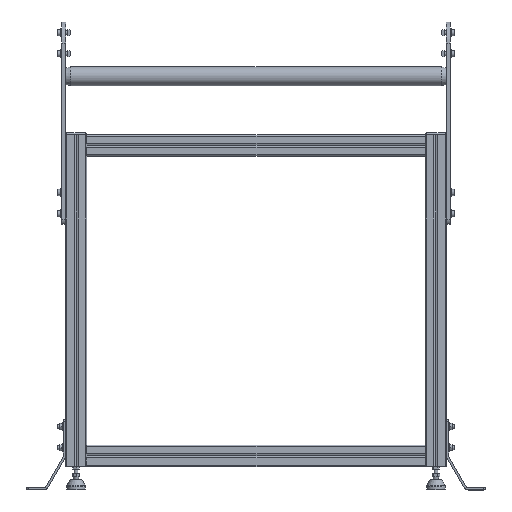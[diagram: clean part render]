
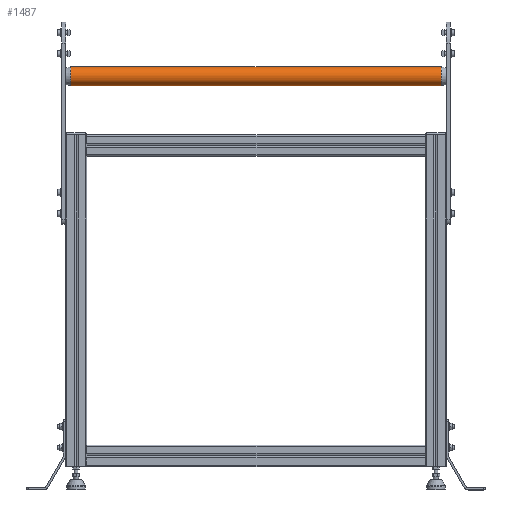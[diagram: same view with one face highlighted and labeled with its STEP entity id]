
A CAD part, top view. The second image highlights one B-rep face of the part: STEP entity #1487.
In plain terms, the highlighted cylindrical face has radius 20 mm (diameter 40 mm), a full revolution.
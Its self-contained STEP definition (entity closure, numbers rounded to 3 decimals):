
#77 = CYLINDRICAL_SURFACE ( 'NONE', #2859, 20. ) ;
#492 = ORIENTED_EDGE ( 'NONE', *, *, #12271, .T. ) ;
#715 = AXIS2_PLACEMENT_3D ( 'NONE', #10625, #8504, #14344 ) ;
#1487 = ADVANCED_FACE ( 'NONE', ( #11465, #13941 ), #77, .T. ) ;
#2019 = CARTESIAN_POINT ( 'NONE',  ( -394., 0., 20. ) ) ;
#2090 = CARTESIAN_POINT ( 'NONE',  ( 394., 0., 20. ) ) ;
#2764 = EDGE_LOOP ( 'NONE', ( #10231 ) ) ;
#2859 = AXIS2_PLACEMENT_3D ( 'NONE', #4707, #3556, #5692 ) ;
#3344 = DIRECTION ( 'NONE',  ( -1., 0., 0. ) ) ;
#3404 = CIRCLE ( 'NONE', #715, 20. ) ;
#3556 = DIRECTION ( 'NONE',  ( -1., 0., 0. ) ) ;
#4707 = CARTESIAN_POINT ( 'NONE',  ( -413., 0., 0. ) ) ;
#5692 = DIRECTION ( 'NONE',  ( 0., 0., 1. ) ) ;
#8257 = CARTESIAN_POINT ( 'NONE',  ( 394., 0., 0. ) ) ;
#8362 = EDGE_LOOP ( 'NONE', ( #492 ) ) ;
#8504 = DIRECTION ( 'NONE',  ( -1., 0., 0. ) ) ;
#10058 = VERTEX_POINT ( 'NONE', #2019 ) ;
#10231 = ORIENTED_EDGE ( 'NONE', *, *, #10886, .F. ) ;
#10462 = DIRECTION ( 'NONE',  ( 0., 0., 1. ) ) ;
#10625 = CARTESIAN_POINT ( 'NONE',  ( -394., 0., 0. ) ) ;
#10886 = EDGE_CURVE ( 'NONE', #10058, #10058, #3404, .T. ) ;
#11465 = FACE_OUTER_BOUND ( 'NONE', #2764, .T. ) ;
#12271 = EDGE_CURVE ( 'NONE', #12475, #12475, #14316, .T. ) ;
#12475 = VERTEX_POINT ( 'NONE', #2090 ) ;
#12606 = AXIS2_PLACEMENT_3D ( 'NONE', #8257, #3344, #10462 ) ;
#13941 = FACE_OUTER_BOUND ( 'NONE', #8362, .T. ) ;
#14316 = CIRCLE ( 'NONE', #12606, 20. ) ;
#14344 = DIRECTION ( 'NONE',  ( 0., 0., 1. ) ) ;
